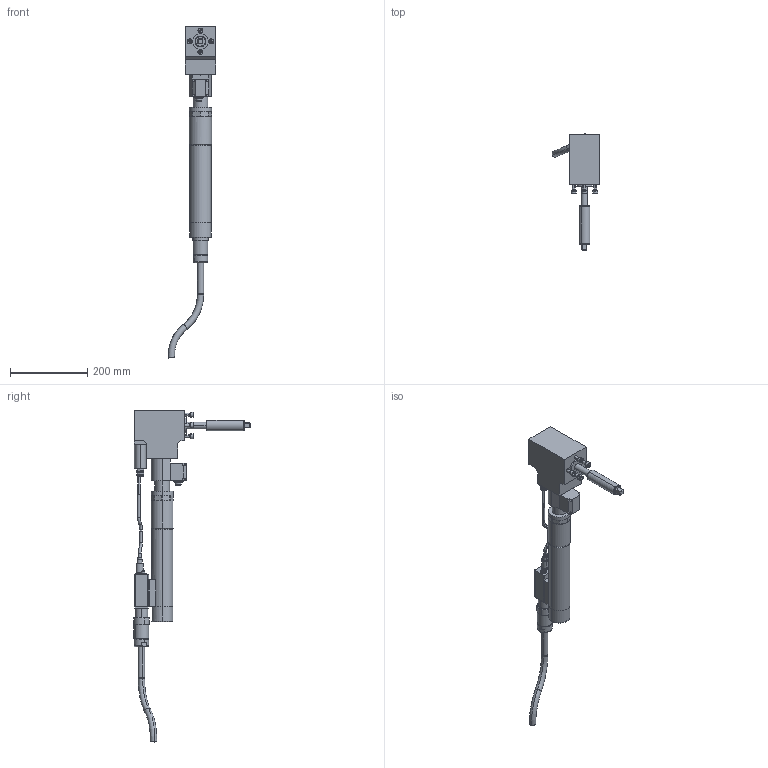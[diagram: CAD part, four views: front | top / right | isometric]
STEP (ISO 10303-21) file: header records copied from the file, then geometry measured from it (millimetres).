
FILE_DESCRIPTION(('CATIA V5 STEP Exchange'),'2;1');
FILE_NAME('C:\pro\7920327_ECR205_DWR63_AWD250-63_AllCATPart.stp','2008-11-10T09:31:19+00:00',('none'),('none'),'CATIA Version 5 Release 17 (IN-10)','CATIA V5 STEP AP203','none');
FILE_SCHEMA(('CONFIG_CONTROL_DESIGN'));
Length unit declared in the file: millimetre
Products named in the file (1): 7920327_ECR205_DWR63_AWD250-63_AllCATPart
Bounding box: 123.82 x 302.48 x 861.56 mm (x, y, z)
Volume: 2724260.3 mm3; surface area: 261905.8 mm2
Topology: 16 solids, 16 shells, 479 faces, 1095 edges, 684 vertices
Faces by surface type: plane 211, cylinder 170, cone 56, torus 42
Entity records: 12649 total; most frequent: CARTESIAN_POINT 2531, ORIENTED_EDGE 2166, DIRECTION 1745, EDGE_CURVE 1083, AXIS2_PLACEMENT_3D 836, VERTEX_POINT 684, VECTOR 557, LINE 557
